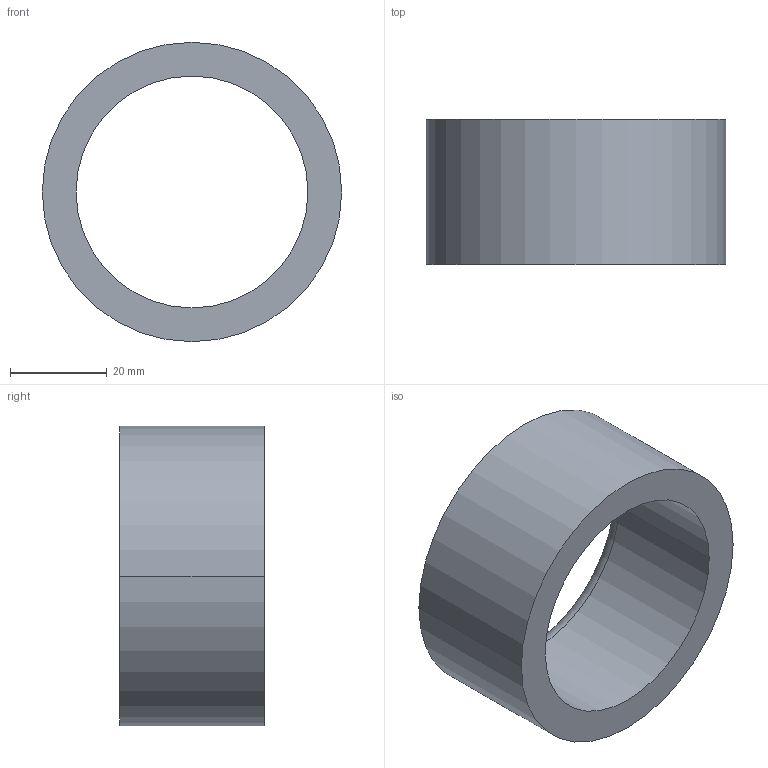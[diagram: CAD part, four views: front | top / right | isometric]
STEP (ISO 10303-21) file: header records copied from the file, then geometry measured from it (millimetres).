
FILE_DESCRIPTION (( 'STEP AP203' ), '1' );
FILE_NAME ('30800.WPP62L48.0.step', '2019-01-23T22:58:41', ( '' ), ( '' ), 'SwSTEP 2.0', 'SolidWorks 2017', '' );
FILE_SCHEMA (( 'CONFIG_CONTROL_DESIGN' ));
Length unit declared in the file: millimetre
Products named in the file (1): 30800.WPP62L48.0
Bounding box: 62 x 30 x 62 mm (x, y, z)
Volume: 35876.1 mm3; surface area: 12565.2 mm2
Topology: 1 solids, 1 shells, 8 faces, 16 edges, 10 vertices
Faces by surface type: cylinder 4, torus 2, plane 2
Entity records: 297 total; most frequent: DIRECTION 46, CARTESIAN_POINT 35, ORIENTED_EDGE 32, AXIS2_PLACEMENT_3D 21, EDGE_CURVE 16, CIRCLE 12, EDGE_LOOP 10, VERTEX_POINT 10
